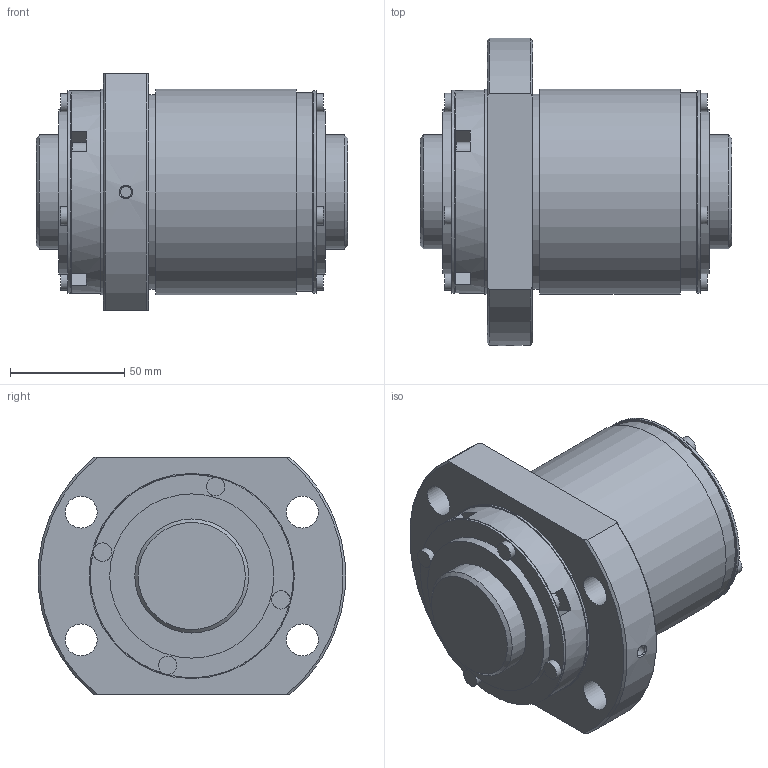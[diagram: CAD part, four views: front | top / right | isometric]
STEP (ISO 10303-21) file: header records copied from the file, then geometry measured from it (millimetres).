
FILE_DESCRIPTION(/* description */ ('STEP AP203'),/* implementation_level */ '2;1');
FILE_NAME(/* name */ 'BLK5050-3.6ZZG1+136.8LC3_0_1300',/* time_stamp */ '2025-01-16T07:05:19+01:00',/* author */ ('License CC BY-ND 4.0'),/* organization */ ('CADENAS'),/* preprocessor_version */ 'ST-DEVELOPER v19.3',/* originating_system */ 'PARTsolutions',/* authorisation */ ' ');
FILE_SCHEMA (('CONFIG_CONTROL_DESIGN'));
Length unit declared in the file: millimetre
Products named in the file (3): BLK5050-3.6ZZG1+136.8LC3_0_1300; ZZ0130BLK5050-3.60Shaft; RR0130BLK5050-3.6Nut
Assembly tree (2 placements, depth 2):
  BLK5050-3.6ZZG1+136.8LC3_0_1300
    ZZ0130BLK5050-3.60Shaft
    RR0130BLK5050-3.6Nut
Bounding box: 136.8 x 134.78 x 104 mm (x, y, z)
Volume: 864377.8 mm3; surface area: 107555 mm2
Topology: 2 solids, 2 shells, 154 faces, 359 edges, 222 vertices
Faces by surface type: plane 95, cylinder 38, cone 17, torus 4
Full cylindrical faces by diameter (mm): 4.5 x4, 4.917 x1, 8 x8, 9.45 x4, 14 x4, 50 x2, 72 x2, 85.5 x1, 87 x1, 89 x3, 90 x2
Entity records: 4064 total; most frequent: CARTESIAN_POINT 773, DIRECTION 698, ORIENTED_EDGE 570, AXIS2_PLACEMENT_3D 289, EDGE_CURVE 285, FACE_BOUND 230, EDGE_LOOP 226, VERTEX_POINT 201
